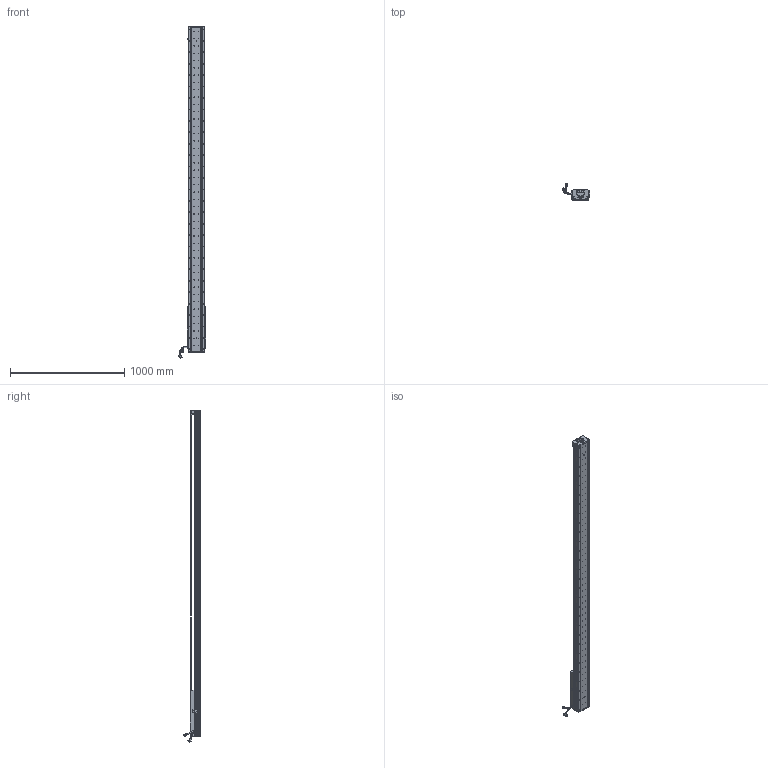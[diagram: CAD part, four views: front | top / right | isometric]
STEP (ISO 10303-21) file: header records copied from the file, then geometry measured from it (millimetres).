
FILE_DESCRIPTION (( 'STEP AP203' ), '1' );
FILE_NAME ('Z5-RY140D-1-L500-B-K.SLDASM_2400.step', '2021-05-17T08:39:59', ( '盈信电脑' ), ( '东莞市道滘镇水果街19号' ), 'SwSTEP 2.0', 'SolidWorks 2016', '' );
FILE_SCHEMA (( 'CONFIG_CONTROL_DESIGN' ));
Length unit declared in the file: millimetre
Products named in the file (36): 詩湍狟揤裔; SCALE-Part-2; Z-RY140感应器672光电感应片; SCREW-M1.6-1; SHIELDPLATE; Z5-RY140-L500直线电机模组底座_2400; SCALE-Part-1; PSLH080_PSLF2; COVER-Part-1; SCREW-M1.6; 140蚥薯蝶輸; Z5-RY140-L500詩湍100mm遵_2400; 080黍杅芛假蚾釱21遴; SCREW-M1.6-2; SEAL-Part-1; 覜茼ん672; 榋妏寠巭燃_暯_M2_2; SEAL; Z-140詩湍傷裔啣; LABEL; 140-Z-臏賑輸盄裔(21遴); SCREW-M1.7-1; 詩湍奻揤裔; Z5-RY140圉猾敕臏賑輸(21遴); COVER; 140雄赽晤鎢ん堤盄; SCREW-M1.7; HARNESS-Part-1; Z5-RY140D-1-L500-B-K.SLDASM_2400; SCREW-M1.6-3; SCALE; LABEL-Part-1; HOLDER0; HARNESS-Part-2; PBU_SHEET; HARNESS
Assembly tree (41 placements, depth 4):
  Z5-RY140D-1-L500-B-K.SLDASM_2400
    Z5-RY140-L500直线电机模组底座_2400
    Z-RY140感应器672光电感应片
    Z5-RY140圉猾敕臏賑輸(21遴)
    覜茼ん672  x3
    Z5-RY140-L500詩湍100mm遵_2400
    PSLH080_PSLF2
      SCALE
        SCALE-Part-1
        SCALE-Part-2
      HARNESS
        HARNESS-Part-1
        HARNESS-Part-2
      LABEL
        LABEL-Part-1
      COVER
        COVER-Part-1
      SEAL
        SEAL-Part-1
      榋妏寠巭燃_暯_M2_2
      SHIELDPLATE
      SCREW-M1.7
      SCREW-M1.7-1
      PBU_SHEET
      SCREW-M1.6
      SCREW-M1.6-1
      SCREW-M1.6-2
      SCREW-M1.6-3
      HOLDER0
    080黍杅芛假蚾釱21遴
    140-Z-臏賑輸盄裔(21遴)
    Z-140詩湍傷裔啣  x2
    詩湍狟揤裔  x2
    詩湍奻揤裔  x2
    140蚥薯蝶輸  x2
    140雄赽晤鎢ん堤盄
Bounding box: 239.79 x 143.88 x 2905.87 mm (x, y, z)
Volume: 9611383.1 mm3; surface area: 2468156.2 mm2
Topology: 36 solids, 36 shells, 4396 faces, 12000 edges, 7607 vertices
Faces by surface type: cylinder 2430, plane 1422, cone 422, torus 69, bspline 53
Entity records: 140904 total; most frequent: CARTESIAN_POINT 40131, ORIENTED_EDGE 20880, DIRECTION 19248, EDGE_CURVE 10440, AXIS2_PLACEMENT_3D 7188, VERTEX_POINT 6775, LINE 4872, VECTOR 4872
